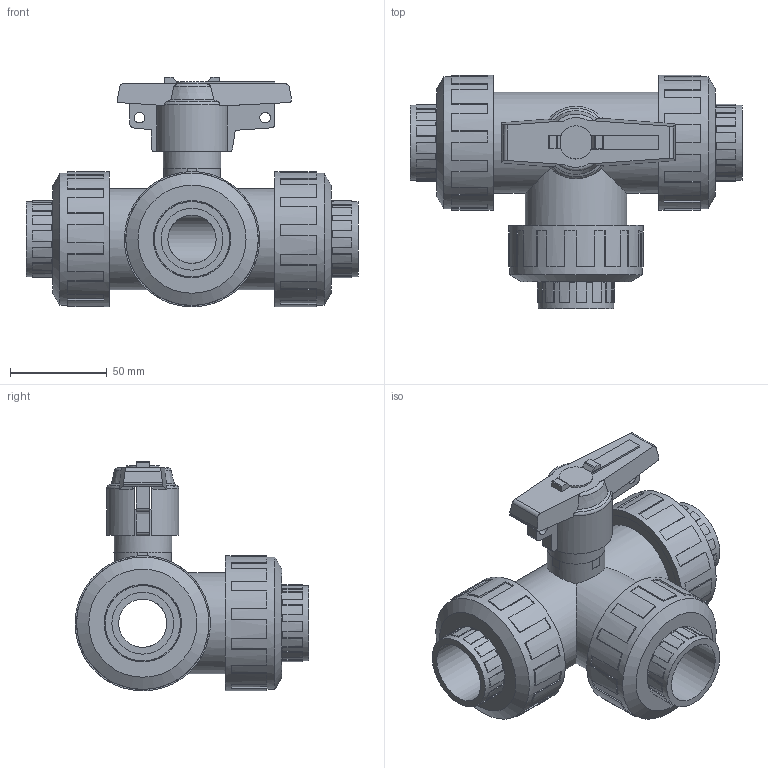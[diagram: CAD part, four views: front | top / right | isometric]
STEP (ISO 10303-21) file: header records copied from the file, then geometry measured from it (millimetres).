
FILE_DESCRIPTION((''),'2;1');
FILE_NAME('M:\3D-Files nach Lieferanten\Praher\PV11013A\PV11013A032.stp','2022-02-17T13:18:39',('RL'),(''),'Autodesk Inventor 2012','Autodesk Inventor 2012','');
FILE_SCHEMA(('AUTOMOTIVE_DESIGN { 1 0 10303 214 1 1 1 1 }'));
Length unit declared in the file: millimetre
Products named in the file (1): PV11013A032
Bounding box: 172 x 121 x 118.93 mm (x, y, z)
Volume: 526058.3 mm3; surface area: 128561.7 mm2
Topology: 1 solids, 1 shells, 522 faces, 1482 edges, 982 vertices
Faces by surface type: plane 441, cylinder 58, cone 15, torus 8
Full cylindrical faces by diameter (mm): 5.5 x2, 25 x2, 29.98 x1, 30 x1, 32 x3, 39 x3, 39.98 x3, 40 x3, 52.48 x3, 52.5 x5, 62.98 x3, 63 x3, 68.6 x3, 70 x3
Entity records: 17107 total; most frequent: CARTESIAN_POINT 3150, DIRECTION 2930, ORIENTED_EDGE 2872, EDGE_CURVE 1436, AXIS2_PLACEMENT_3D 1015, VERTEX_POINT 979, VECTOR 900, LINE 900
